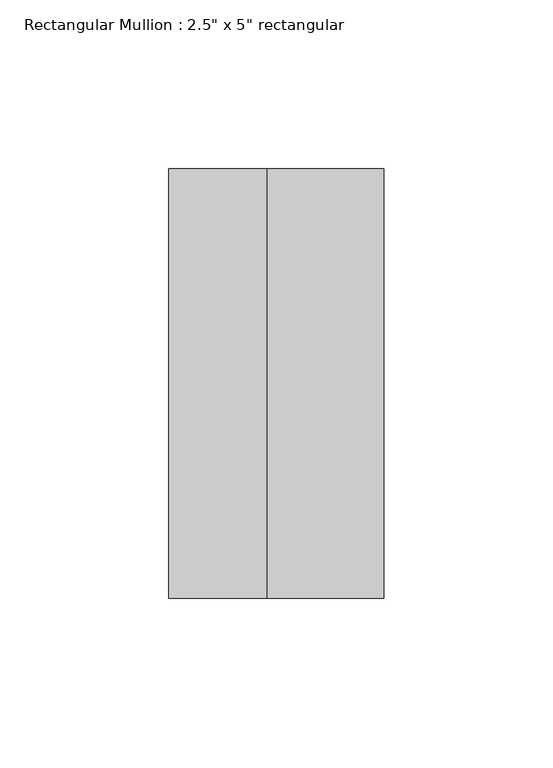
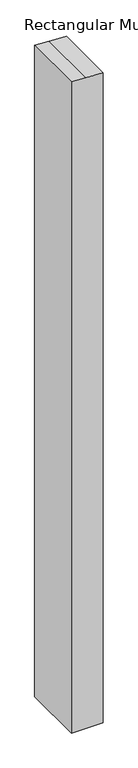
"""IFC4 building model written with IfcOpenShell, lengths in millimetres: member geometry."""

from ifc_helpers import new_model, si_unit, frame, origin, place, context, project, spatial, polyline, outline, extrude, source, transform, mapped, element, save


def member_2c70c373(model_context):
    return source(origin(), model_context, "Body", "SweptSolid", [
        extrude(outline(polyline([(-64.8775557, 31.75), (-63.4449853, -2.6426951), (-62.232569, -31.75), (-1437.7204901, -31.75), (-1437.7204901, 31.75), (-64.8775557, 31.75)])), frame((0.0, -63.5, 0.0), z_axis=(0.0, 1.0, 0.0), x_axis=(0.0, 0.0, 1.0)), (0.0, 0.0, 1.0), 127.0),
    ])


if __name__ == "__main__":
    model = new_model("IFC4")
    model_context = context("Model", 3, world=origin())
    ifc_project = project(units=[si_unit("LENGTHUNIT", "METRE", prefix="MILLI")], contexts=[model_context])
    site = spatial("IfcSite", under=ifc_project)
    building = spatial("IfcBuilding", under=site)
    placement = place(None, origin())
    member_shape = member_2c70c373(model_context)
    element("IfcMember", 1, ObjectType="Rectangular Mullion : 2.5\" x 5\" rectangular", at=placement, inside=building, context=model_context, shape_type="MappedRepresentation", body=[
        mapped(member_shape, transform((0.0, 0.0, 0.0), x_axis=(1.0, 0.0, 0.0), y_axis=(0.0, 1.0, 0.0), z_axis=(0.0, 0.0, 1.0))),
    ])
    save(model, "model.ifc")
